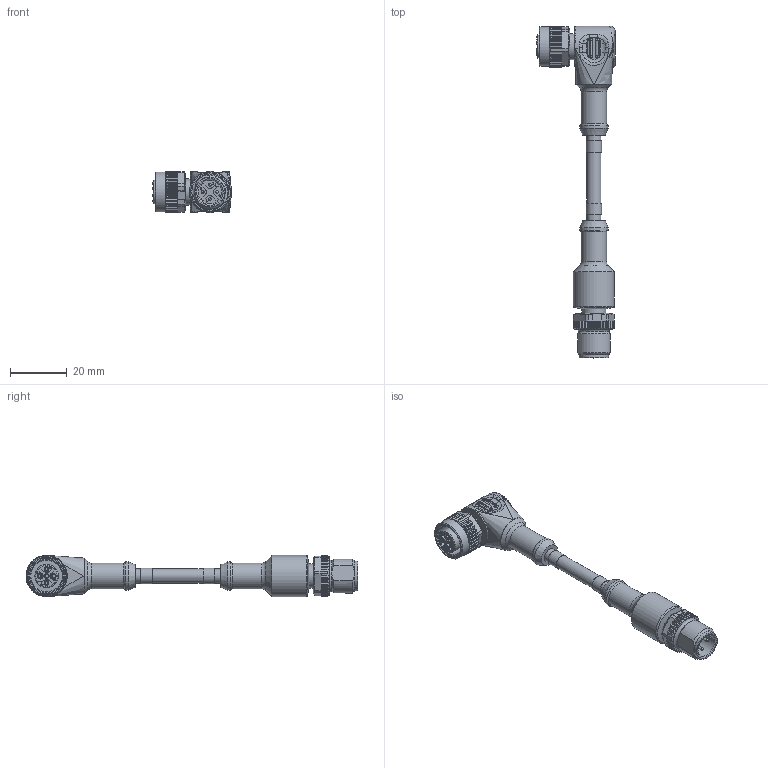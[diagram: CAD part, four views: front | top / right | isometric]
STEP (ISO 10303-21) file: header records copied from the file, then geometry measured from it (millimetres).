
FILE_DESCRIPTION(/* description */ (''),/* implementation_level */ '2;1');
FILE_NAME(/* name */ '83952.stp',/* time_stamp */ '2018-10-26T09:50:51+02:00',/* author */ (''),/* organization */ (''),/* preprocessor_version */ 'ST-DEVELOPER v16',/* originating_system */ 'SIEMENS PLM Software NX 11.0',/* authorisation */ '');
FILE_SCHEMA (('AUTOMOTIVE_DESIGN { 1 0 10303 214 3 1 1 1 }'));
Length unit declared in the file: millimetre
Products named in the file (1): sgro29C41DF56y94
Bounding box: 27.6 x 117 x 14.5 mm (x, y, z)
Volume: 11425.6 mm3; surface area: 6236.9 mm2
Topology: 1 solids, 3 shells, 775 faces, 2037 edges, 1292 vertices
Faces by surface type: plane 357, cylinder 244, bspline 58, cone 46, extrusion 32, torus 26, sphere 12
Full cylindrical faces by diameter (mm): 1 x4, 1.1 x4, 1.2 x1, 1.6 x4, 5 x3, 5.4 x2, 8.2 x1, 8.3 x1, 8.5 x1, 9 x2, 9.2 x1, 10 x2, 10.4 x1, 11.1 x1, 12.4 x1, 14 x1, 14.5 x2
Entity records: 27159 total; most frequent: CARTESIAN_POINT 9330, ORIENTED_EDGE 3858, DIRECTION 3408, EDGE_CURVE 1929, VERTEX_POINT 1255, AXIS2_PLACEMENT_3D 1254, VECTOR 900, LINE 868
